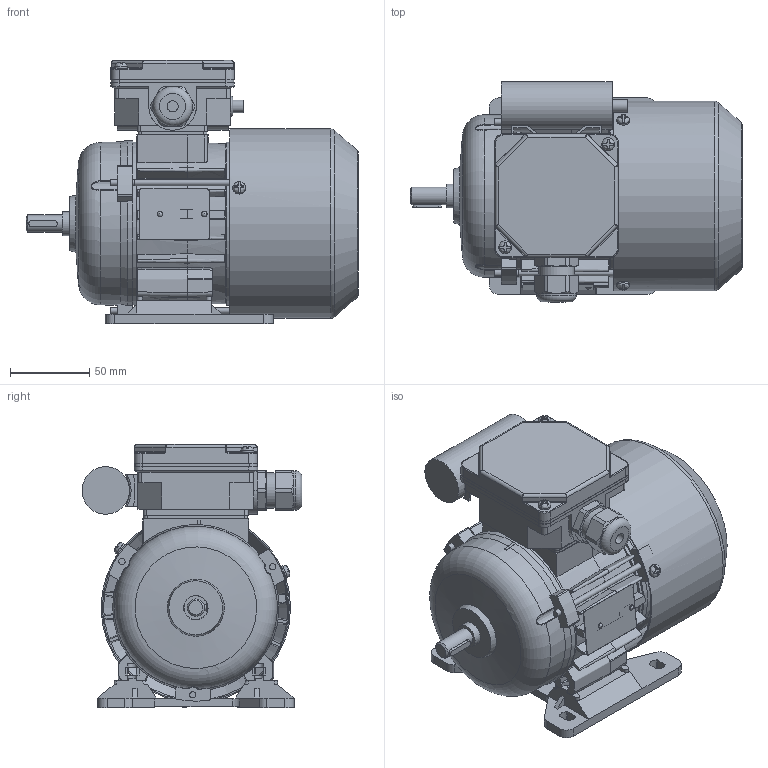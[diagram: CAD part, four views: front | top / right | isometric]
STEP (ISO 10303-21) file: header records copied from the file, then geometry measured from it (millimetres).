
FILE_DESCRIPTION( ( 'Unknown' ), '1' );
FILE_NAME( 'G:/Poczta Tk-1/STP/w.m.63/SEh63/SE(M)h63-B.stp', 'Unknown', ( 'K. Szlosek' ), ( 'BESEL S.A.' ), 'PSStep 17.0.49', 'Unknown', ' ' );
FILE_SCHEMA( ( 'AUTOMOTIVE_DESIGN { 1 0 10303 214 1 1 1 1 }' ) );
Length unit declared in the file: millimetre
Products named in the file (33): Assem1; K3-5320 Tarcza łożyskowa P Sg63; K4-2320 Uszczelka nr 1 Sh71,80; Wpust A4x4x18; K4-2820 Uszczelka nr 2 Sh71,80; K2-0860 Pokrywka skrzynki zaciskowej; Wkręt samogwintujący M4x16; K4-0898 Tulejka uszczelniająca; Kondensator zb 8-10uF; K2-1769 Przewietrznik Sg63; Wkręt samogwintujący M4x8; K1-1107 Łapa Sg63-.. w. robocza; K3-9974 wał Sh63-A,B standard; K3-9973 Kadłub ze stojanem wykończonym Sh63-B; K3-9440 Podstawa  skrzynki zaciskowej SEhR71-D; K3-1974 Uchwyt kondensatora (mały); K3-5321 osłona przewietrznika Sg63; Łożysko 6202; Dławnica M20x1,5; Śruba ściągająca E_M4x85; Tabliczka znamionowa 32x44; Nitokołek A 2x6; K2-1763 Tarcza łożyskowa N Sh63
Assembly tree (49 placements, depth 2):
  Assem1
    K3-5320 Tarcza łożyskowa P Sg63
    K4-2320 Uszczelka nr 1 Sh71,80
    Wpust A4x4x18
    K4-2820 Uszczelka nr 2 Sh71,80
    K2-0860 Pokrywka skrzynki zaciskowej
    Wkręt samogwintujący M4x16  x2
    K4-0898 Tulejka uszczelniająca
    Kondensator zb 8-10uF
    K2-1769 Przewietrznik Sg63
    Wkręt samogwintujący M4x8  x3
    K1-1107 Łapa Sg63-.. w. robocza
    K3-9974 wał Sh63-A,B standard
    K3-9973 Kadłub ze stojanem wykończonym Sh63-B
    K3-9440 Podstawa  skrzynki zaciskowej SEhR71-D
    K3-1974 Uchwyt kondensatora (mały)
    K3-5321 osłona przewietrznika Sg63
    Łożysko 6202  x2
    Łożysko 6202  x2
    Łożysko 6202  x2
    Łożysko 6202  x2
    Łożysko 6202  x2
    Łożysko 6202  x2
    Łożysko 6202  x2
    Łożysko 6202  x2
    Łożysko 6202  x2
    Łożysko 6202  x2
    Łożysko 6202  x2
    Dławnica M20x1,5
    Śruba ściągająca E_M4x85  x3
    Tabliczka znamionowa 32x44
    Nitokołek A 2x6  x2
    K2-1763 Tarcza łożyskowa N Sh63
Bounding box: 209.5 x 138.82 x 166 mm (x, y, z)
Volume: 566884.8 mm3; surface area: 363374.4 mm2
Topology: 49 solids, 67 shells, 2120 faces, 5842 edges, 3794 vertices
Faces by surface type: plane 1057, cylinder 602, cone 160, torus 148, bspline 114, sphere 39
Full cylindrical faces by diameter (mm): 2 x2, 2.4 x2, 3 x1, 3.242 x3, 3.5 x2, 3.7 x10, 4 x8, 4.5 x4, 4.6 x1, 4.8 x4, 5 x4, 5.8 x4, 6.5 x1, 7 x4, 8 x7, 10 x2, 11 x1, 12.9 x1, 13.1 x1, 13.5 x1, 15 x4, 15.4 x2, 18.38 x1, 18.5 x1, 19 x2, 19.5 x1, 20 x2, 20.1 x1, 21.52 x4, 22.3 x1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
Entity records: 94622 total; most frequent: CARTESIAN_POINT 31018, ORIENTED_EDGE 10244, DIRECTION 9723, EDGE_CURVE 5122, AXIS2_PLACEMENT_3D 3620, VERTEX_POINT 3474, LINE 2483, VECTOR 2483
